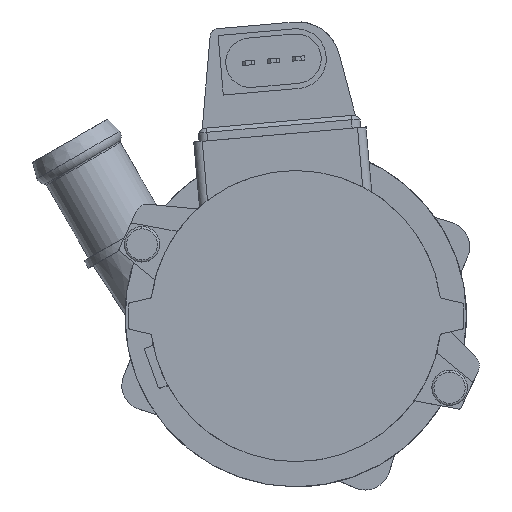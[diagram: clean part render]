
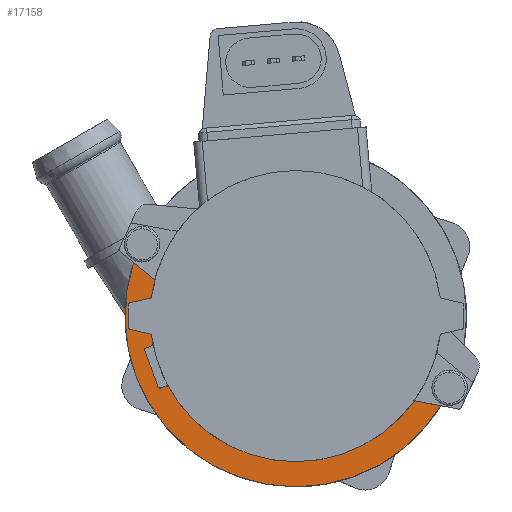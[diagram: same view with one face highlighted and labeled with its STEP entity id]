
A CAD part, front view. The second image highlights one B-rep face of the part: STEP entity #17158.
In plain terms, the highlighted planar face has unit normal (0, -1, 0).
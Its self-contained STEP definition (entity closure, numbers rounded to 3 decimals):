
#9 = VERTEX_POINT ( 'NONE', #3979 ) ;
#146 = CARTESIAN_POINT ( 'NONE',  ( -33.268, 43.2, 8.704 ) ) ;
#180 = CARTESIAN_POINT ( 'NONE',  ( 0., 43.2, -40. ) ) ;
#253 = CIRCLE ( 'NONE', #4909, 40. ) ;
#426 = VERTEX_POINT ( 'NONE', #16714 ) ;
#611 = DIRECTION ( 'NONE',  ( 0., -1., 0. ) ) ;
#722 = CARTESIAN_POINT ( 'NONE',  ( 0., 43.2, -34.1 ) ) ;
#1046 = ORIENTED_EDGE ( 'NONE', *, *, #3135, .F. ) ;
#1460 = VERTEX_POINT ( 'NONE', #11889 ) ;
#1463 = CARTESIAN_POINT ( 'NONE',  ( -31.82, 43.2, -16.37 ) ) ;
#1502 = DIRECTION ( 'NONE',  ( 0., 0., 1. ) ) ;
#1563 = DIRECTION ( 'NONE',  ( 0., -1., 0. ) ) ;
#1603 = CARTESIAN_POINT ( 'NONE',  ( -1.71, 43.2, 4.698 ) ) ;
#1645 = CARTESIAN_POINT ( 'NONE',  ( 27.556, 43.2, -20.087 ) ) ;
#1646 = CARTESIAN_POINT ( 'NONE',  ( 34.041, 43.2, -21.006 ) ) ;
#1659 = ORIENTED_EDGE ( 'NONE', *, *, #7636, .T. ) ;
#1785 = AXIS2_PLACEMENT_3D ( 'NONE', #6831, #2553, #5403 ) ;
#2081 = EDGE_CURVE ( 'NONE', #3447, #6100, #7631, .T. ) ;
#2103 = LINE ( 'NONE', #1603, #9669 ) ;
#2117 = EDGE_CURVE ( 'NONE', #4608, #16030, #13265, .T. ) ;
#2169 = AXIS2_PLACEMENT_3D ( 'NONE', #1463, #15141, #9816 ) ;
#2195 = VECTOR ( 'NONE', #8697, 1000. ) ;
#2197 = AXIS2_PLACEMENT_3D ( 'NONE', #17184, #13054, #4826 ) ;
#2468 = AXIS2_PLACEMENT_3D ( 'NONE', #5193, #7739, #11933 ) ;
#2553 = DIRECTION ( 'NONE',  ( 0., 1., 0. ) ) ;
#2621 = DIRECTION ( 'NONE',  ( 0., -1., 0. ) ) ;
#2622 = CARTESIAN_POINT ( 'NONE',  ( -32.29, 43.2, -16.541 ) ) ;
#2694 = EDGE_CURVE ( 'NONE', #11443, #5903, #3509, .T. ) ;
#2730 = CIRCLE ( 'NONE', #7635, 0.5 ) ;
#2743 = DIRECTION ( 'NONE',  ( 0., 1., 0. ) ) ;
#2836 = ORIENTED_EDGE ( 'NONE', *, *, #2117, .T. ) ;
#2881 = DIRECTION ( 'NONE',  ( 0., -1., 0. ) ) ;
#3098 = DIRECTION ( 'NONE',  ( 0., 1., 0. ) ) ;
#3135 = EDGE_CURVE ( 'NONE', #11400, #9683, #253, .T. ) ;
#3137 = CARTESIAN_POINT ( 'NONE',  ( -37.972, 43.2, 12.574 ) ) ;
#3366 = CIRCLE ( 'NONE', #2468, 34.1 ) ;
#3435 = ORIENTED_EDGE ( 'NONE', *, *, #11743, .T. ) ;
#3447 = VERTEX_POINT ( 'NONE', #12341 ) ;
#3509 = LINE ( 'NONE', #16453, #10655 ) ;
#3619 = AXIS2_PLACEMENT_3D ( 'NONE', #9521, #2621, #8193 ) ;
#3979 = CARTESIAN_POINT ( 'NONE',  ( -33.81, 43.2, -6.985 ) ) ;
#4501 = DIRECTION ( 'NONE',  ( 0., 0., 1. ) ) ;
#4537 = ORIENTED_EDGE ( 'NONE', *, *, #2694, .F. ) ;
#4575 = ORIENTED_EDGE ( 'NONE', *, *, #10433, .T. ) ;
#4608 = VERTEX_POINT ( 'NONE', #17390 ) ;
#4727 = CARTESIAN_POINT ( 'NONE',  ( -35.069, 43.2, -7.443 ) ) ;
#4826 = DIRECTION ( 'NONE',  ( 0., 0., 1. ) ) ;
#4900 = DIRECTION ( 'NONE',  ( 0.983, 0., -0.183 ) ) ;
#4909 = AXIS2_PLACEMENT_3D ( 'NONE', #13026, #10195, #7452 ) ;
#5030 = VECTOR ( 'NONE', #4900, 1000. ) ;
#5193 = CARTESIAN_POINT ( 'NONE',  ( 0., 43.2, 0. ) ) ;
#5223 = VECTOR ( 'NONE', #7298, 1000. ) ;
#5317 = EDGE_CURVE ( 'NONE', #8460, #3447, #16932, .T. ) ;
#5333 = EDGE_CURVE ( 'NONE', #426, #10175, #9785, .T. ) ;
#5403 = DIRECTION ( 'NONE',  ( 0., 0., 1. ) ) ;
#5480 = CARTESIAN_POINT ( 'NONE',  ( -33.981, 43.2, -6.515 ) ) ;
#5630 = CARTESIAN_POINT ( 'NONE',  ( 0., 43.2, 0. ) ) ;
#5687 = CARTESIAN_POINT ( 'NONE',  ( 0., 43.2, 0. ) ) ;
#5903 = VERTEX_POINT ( 'NONE', #146 ) ;
#5987 = CIRCLE ( 'NONE', #10296, 0.5 ) ;
#6100 = VERTEX_POINT ( 'NONE', #4727 ) ;
#6105 = CARTESIAN_POINT ( 'NONE',  ( -31.649, 43.2, -16.84 ) ) ;
#6131 = ORIENTED_EDGE ( 'NONE', *, *, #11510, .F. ) ;
#6781 = AXIS2_PLACEMENT_3D ( 'NONE', #15152, #2743, #12296 ) ;
#6818 = CIRCLE ( 'NONE', #16374, 34.1 ) ;
#6831 = CARTESIAN_POINT ( 'NONE',  ( -34.898, 43.2, -7.913 ) ) ;
#7052 = EDGE_CURVE ( 'NONE', #1460, #426, #5987, .T. ) ;
#7298 = DIRECTION ( 'NONE',  ( -0.342, 0., 0.94 ) ) ;
#7333 = ORIENTED_EDGE ( 'NONE', *, *, #5333, .T. ) ;
#7447 = ORIENTED_EDGE ( 'NONE', *, *, #5317, .T. ) ;
#7452 = DIRECTION ( 'NONE',  ( 0., 0., 1. ) ) ;
#7495 = CARTESIAN_POINT ( 'NONE',  ( -33.585, 43.2, 8.318 ) ) ;
#7547 = VERTEX_POINT ( 'NONE', #722 ) ;
#7631 = CIRCLE ( 'NONE', #1785, 0.5 ) ;
#7635 = AXIS2_PLACEMENT_3D ( 'NONE', #7495, #611, #10354 ) ;
#7636 = EDGE_CURVE ( 'NONE', #14434, #5903, #2730, .T. ) ;
#7739 = DIRECTION ( 'NONE',  ( 0., 1., 0. ) ) ;
#7844 = LINE ( 'NONE', #11216, #5030 ) ;
#7935 = CIRCLE ( 'NONE', #2197, 40. ) ;
#8193 = DIRECTION ( 'NONE',  ( 0., 0., 1. ) ) ;
#8269 = AXIS2_PLACEMENT_3D ( 'NONE', #5687, #3098, #4501 ) ;
#8460 = VERTEX_POINT ( 'NONE', #2622 ) ;
#8697 = DIRECTION ( 'NONE',  ( -0.94, 0., -0.342 ) ) ;
#9189 = EDGE_CURVE ( 'NONE', #16030, #7547, #6818, .T. ) ;
#9211 = EDGE_CURVE ( 'NONE', #6100, #9, #2103, .T. ) ;
#9409 = EDGE_CURVE ( 'NONE', #10307, #14434, #3366, .T. ) ;
#9521 = CARTESIAN_POINT ( 'NONE',  ( 27.96, 43.2, -20.381 ) ) ;
#9669 = VECTOR ( 'NONE', #11287, 1000. ) ;
#9683 = VERTEX_POINT ( 'NONE', #180 ) ;
#9728 = CARTESIAN_POINT ( 'NONE',  ( 1.71, 43.2, -4.698 ) ) ;
#9785 = LINE ( 'NONE', #9728, #2195 ) ;
#9791 = CARTESIAN_POINT ( 'NONE',  ( -30.219, 43.2, -16.852 ) ) ;
#9816 = DIRECTION ( 'NONE',  ( 0., 0., 1. ) ) ;
#10114 = ORIENTED_EDGE ( 'NONE', *, *, #9409, .T. ) ;
#10175 = VERTEX_POINT ( 'NONE', #6105 ) ;
#10195 = DIRECTION ( 'NONE',  ( 0., 1., 0. ) ) ;
#10296 = AXIS2_PLACEMENT_3D ( 'NONE', #9791, #1563, #1502 ) ;
#10307 = VERTEX_POINT ( 'NONE', #14951 ) ;
#10354 = DIRECTION ( 'NONE',  ( 0., 0., 1. ) ) ;
#10433 = EDGE_CURVE ( 'NONE', #10175, #8460, #14763, .T. ) ;
#10655 = VECTOR ( 'NONE', #13669, 1000. ) ;
#11097 = DIRECTION ( 'NONE',  ( 0., 1., 0. ) ) ;
#11216 = CARTESIAN_POINT ( 'NONE',  ( 27.74, 43.2, -19.832 ) ) ;
#11287 = DIRECTION ( 'NONE',  ( 0.94, 0., 0.342 ) ) ;
#11400 = VERTEX_POINT ( 'NONE', #1646 ) ;
#11443 = VERTEX_POINT ( 'NONE', #3137 ) ;
#11510 = EDGE_CURVE ( 'NONE', #9683, #11443, #7935, .T. ) ;
#11638 = CIRCLE ( 'NONE', #6781, 34.1 ) ;
#11743 = EDGE_CURVE ( 'NONE', #9, #10307, #17910, .T. ) ;
#11889 = CARTESIAN_POINT ( 'NONE',  ( -29.782, 43.2, -16.608 ) ) ;
#11933 = DIRECTION ( 'NONE',  ( 0., 0., 1. ) ) ;
#12296 = DIRECTION ( 'NONE',  ( 0., 0., 1. ) ) ;
#12341 = CARTESIAN_POINT ( 'NONE',  ( -35.368, 43.2, -8.084 ) ) ;
#12667 = PLANE ( 'NONE',  #8269 ) ;
#12744 = AXIS2_PLACEMENT_3D ( 'NONE', #5480, #2881, #16618 ) ;
#13026 = CARTESIAN_POINT ( 'NONE',  ( 0., 43.2, 0. ) ) ;
#13054 = DIRECTION ( 'NONE',  ( 0., 1., 0. ) ) ;
#13265 = CIRCLE ( 'NONE', #3619, 0.5 ) ;
#13437 = ORIENTED_EDGE ( 'NONE', *, *, #2081, .T. ) ;
#13669 = DIRECTION ( 'NONE',  ( 0.772, 0., -0.635 ) ) ;
#14087 = ORIENTED_EDGE ( 'NONE', *, *, #9211, .T. ) ;
#14434 = VERTEX_POINT ( 'NONE', #15953 ) ;
#14603 = ORIENTED_EDGE ( 'NONE', *, *, #7052, .T. ) ;
#14763 = CIRCLE ( 'NONE', #2169, 0.5 ) ;
#14951 = CARTESIAN_POINT ( 'NONE',  ( -33.49, 43.2, -6.421 ) ) ;
#15141 = DIRECTION ( 'NONE',  ( 0., 1., 0. ) ) ;
#15152 = CARTESIAN_POINT ( 'NONE',  ( 0., 43.2, 0. ) ) ;
#15187 = EDGE_CURVE ( 'NONE', #7547, #1460, #11638, .T. ) ;
#15315 = DIRECTION ( 'NONE',  ( 0., 0., 1. ) ) ;
#15953 = CARTESIAN_POINT ( 'NONE',  ( -33.1, 43.2, 8.198 ) ) ;
#16030 = VERTEX_POINT ( 'NONE', #1645 ) ;
#16191 = ORIENTED_EDGE ( 'NONE', *, *, #15187, .T. ) ;
#16323 = ORIENTED_EDGE ( 'NONE', *, *, #17920, .F. ) ;
#16374 = AXIS2_PLACEMENT_3D ( 'NONE', #5630, #11097, #15315 ) ;
#16453 = CARTESIAN_POINT ( 'NONE',  ( -9.157, 43.2, -11.131 ) ) ;
#16546 = EDGE_LOOP ( 'NONE', ( #16323, #2836, #16667, #16191, #14603, #7333, #4575, #7447, #13437, #14087, #3435, #10114, #1659, #4537, #6131, #1046 ) ) ;
#16618 = DIRECTION ( 'NONE',  ( 0., 0., 1. ) ) ;
#16623 = CARTESIAN_POINT ( 'NONE',  ( -33.829, 43.2, -12.313 ) ) ;
#16667 = ORIENTED_EDGE ( 'NONE', *, *, #9189, .T. ) ;
#16714 = CARTESIAN_POINT ( 'NONE',  ( -30.39, 43.2, -16.382 ) ) ;
#16932 = LINE ( 'NONE', #16623, #5223 ) ;
#17158 = ADVANCED_FACE ( 'NONE', ( #17633 ), #12667, .F. ) ;
#17184 = CARTESIAN_POINT ( 'NONE',  ( 0., 43.2, 0. ) ) ;
#17390 = CARTESIAN_POINT ( 'NONE',  ( 28.052, 43.2, -19.89 ) ) ;
#17633 = FACE_OUTER_BOUND ( 'NONE', #16546, .T. ) ;
#17910 = CIRCLE ( 'NONE', #12744, 0.5 ) ;
#17920 = EDGE_CURVE ( 'NONE', #4608, #11400, #7844, .T. ) ;
